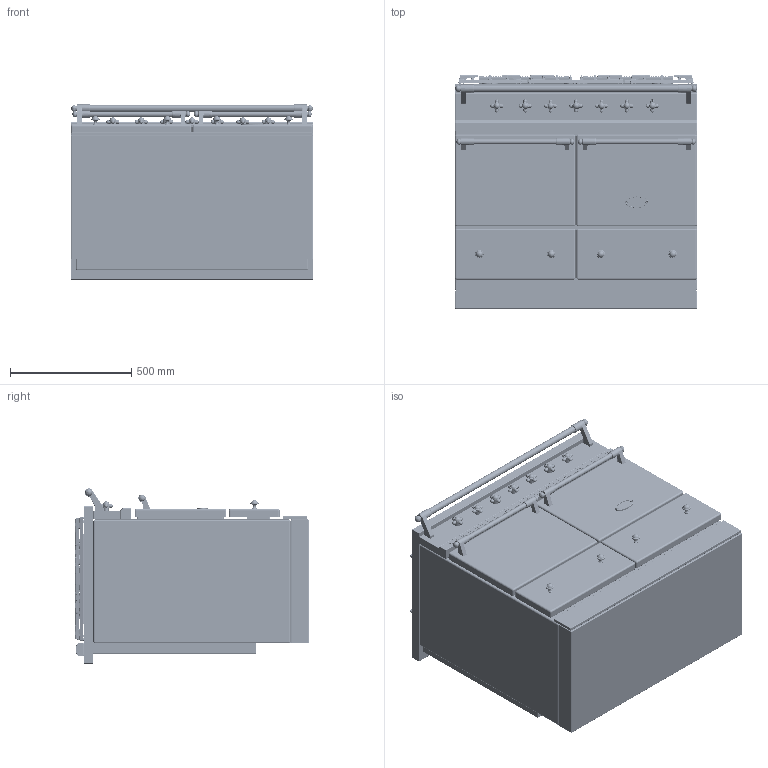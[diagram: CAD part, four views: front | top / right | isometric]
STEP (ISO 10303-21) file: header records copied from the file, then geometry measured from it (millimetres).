
FILE_DESCRIPTION((''),'2;1');
FILE_NAME('LG1052_ASM','2021-12-01T14:04:15',('r.avril'),(''),'CREO PARAMETRIC BY PTC INC, 2017260','CREO PARAMETRIC BY PTC INC, 2017260','');
FILE_SCHEMA(('AP203_CONFIGURATION_CONTROLLED_3D_DESIGN_OF_MECHANICAL_PARTS_AND_ASSEMBLIES_MIM_LF { 1 0 10303 403 2 1 2 }'));
Products named in the file (26): BASE_EXPORT_CLUNY; 65650003; 65650004; 6531940; 6531941; 6538399; 1931942; 65080022_AF0; 6531942_ASM; 6531943; 65049009; 65650001; BASE_EXPORT_CLUNY_ASM; TABLE_1000_CLASSIQUE; 3KW; 5KW; 1_5KW; 4KW; 6537025; 65149005; 90000488_ASM; 6537024; 90000487_ASM; CHEMINEE_2020_LG371_EXPORT_STEP; TABLE_1000_CLASSIQUE_ASM; LG1052_ASM
Assembly tree (47 placements, depth 4):
  LG1052_ASM
    BASE_EXPORT_CLUNY_ASM
      BASE_EXPORT_CLUNY
      65650003
      65650004
      6531940  x2
      6531941  x2
      6531942_ASM  x7
        6538399
        1931942
        65080022_AF0
      6531943  x4
      65049009
      65650001
    TABLE_1000_CLASSIQUE_ASM
      TABLE_1000_CLASSIQUE
      3KW  x2
      5KW
      1_5KW
      4KW
      90000488_ASM  x2
        6537025
        65149005
      90000487_ASM  x2
        6537024
        65149005
      CHEMINEE_2020_LG371_EXPORT_STEP  x2
Bounding box: 1000 x 965 x 724 mm (x, y, z)
Volume: 531788915.9 mm3; surface area: 8915343.7 mm2
Topology: 69 solids, 79 shells, 7680 faces, 19788 edges, 12172 vertices
Faces by surface type: plane 3038, cylinder 2305, bspline 1176, cone 376, torus 283, sphere 252, extrusion 238, revolution 12
Entity records: 148059 total; most frequent: CARTESIAN_POINT 47067, ORIENTED_EDGE 16938, DIRECTION 15244, EDGE_CURVE 8479, AXIS2_PLACEMENT_3D 5311, VERTEX_POINT 5217, PRESENTATION_STYLE_ASSIGNMENT 4841, STYLED_ITEM 4818
